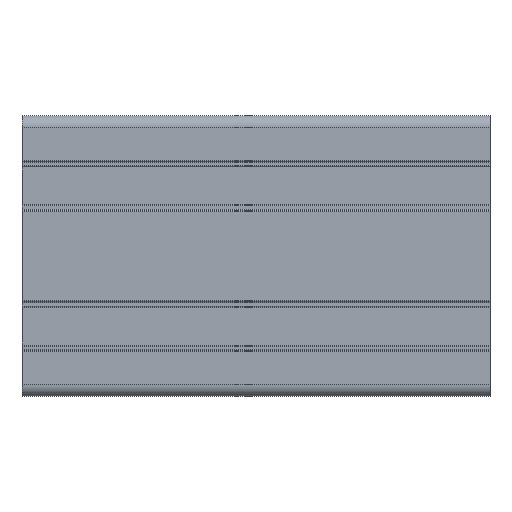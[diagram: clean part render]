
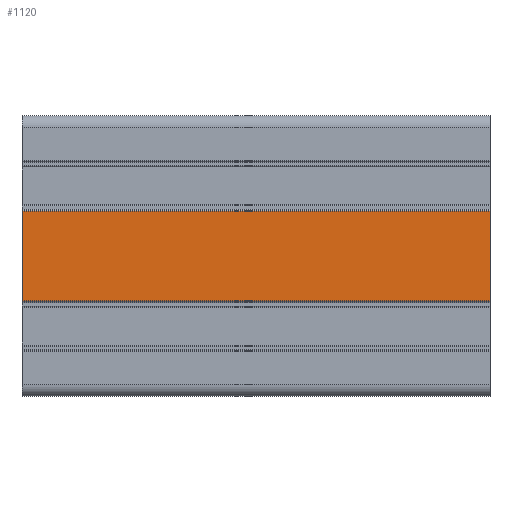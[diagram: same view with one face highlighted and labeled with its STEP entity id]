
A CAD part, front view. The second image highlights one B-rep face of the part: STEP entity #1120.
In plain terms, the highlighted planar face has unit normal (0, -1, 0).
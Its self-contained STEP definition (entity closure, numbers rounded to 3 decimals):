
#1120=ADVANCED_FACE('',(#3286),#3288,.T.);
#3286=FACE_BOUND('',#3287,.T.);
#3287=EDGE_LOOP('',(#5270,#5271,#5272,#5273));
#3288=PLANE('',#3289);
#3289=AXIS2_PLACEMENT_3D('',#3290,#3291,#3292);
#3290=CARTESIAN_POINT('',(-50.,-30.,9.6));
#3291=DIRECTION('',(0.,-1.,0.));
#3292=DIRECTION('',(0.,0.,-1.));
#5270=ORIENTED_EDGE('',*,*,#5886,.T.);
#5271=ORIENTED_EDGE('',*,*,#6478,.T.);
#5272=ORIENTED_EDGE('',*,*,#6249,.F.);
#5273=ORIENTED_EDGE('',*,*,#6479,.F.);
#5886=EDGE_CURVE('',#6703,#6701,#6704,.T.);
#6249=EDGE_CURVE('',#7427,#7429,#7430,.T.);
#6478=EDGE_CURVE('',#6701,#7429,#7774,.T.);
#6479=EDGE_CURVE('',#6703,#7427,#7775,.T.);
#6701=VERTEX_POINT('',#8088);
#6703=VERTEX_POINT('',#8093);
#6704=LINE('',#8094,#8095);
#7427=VERTEX_POINT('',#9680);
#7429=VERTEX_POINT('',#9685);
#7430=LINE('',#9686,#9687);
#7774=LINE('',#10534,#10535);
#7775=LINE('',#10537,#10538);
#8088=CARTESIAN_POINT('',(-50.,-30.,-9.6));
#8093=CARTESIAN_POINT('',(-50.,-30.,9.6));
#8094=CARTESIAN_POINT('',(-50.,-30.,9.6));
#8095=VECTOR('',#8096,1.);
#8096=DIRECTION('',(0.,0.,-1.));
#9680=CARTESIAN_POINT('',(50.,-30.,9.6));
#9685=CARTESIAN_POINT('',(50.,-30.,-9.6));
#9686=CARTESIAN_POINT('',(50.,-30.,9.6));
#9687=VECTOR('',#9688,1.);
#9688=DIRECTION('',(0.,0.,-1.));
#10534=CARTESIAN_POINT('',(-50.,-30.,-9.6));
#10535=VECTOR('',#10536,1.);
#10536=DIRECTION('',(1.,0.,0.));
#10537=CARTESIAN_POINT('',(-50.,-30.,9.6));
#10538=VECTOR('',#10539,1.);
#10539=DIRECTION('',(1.,0.,0.));
